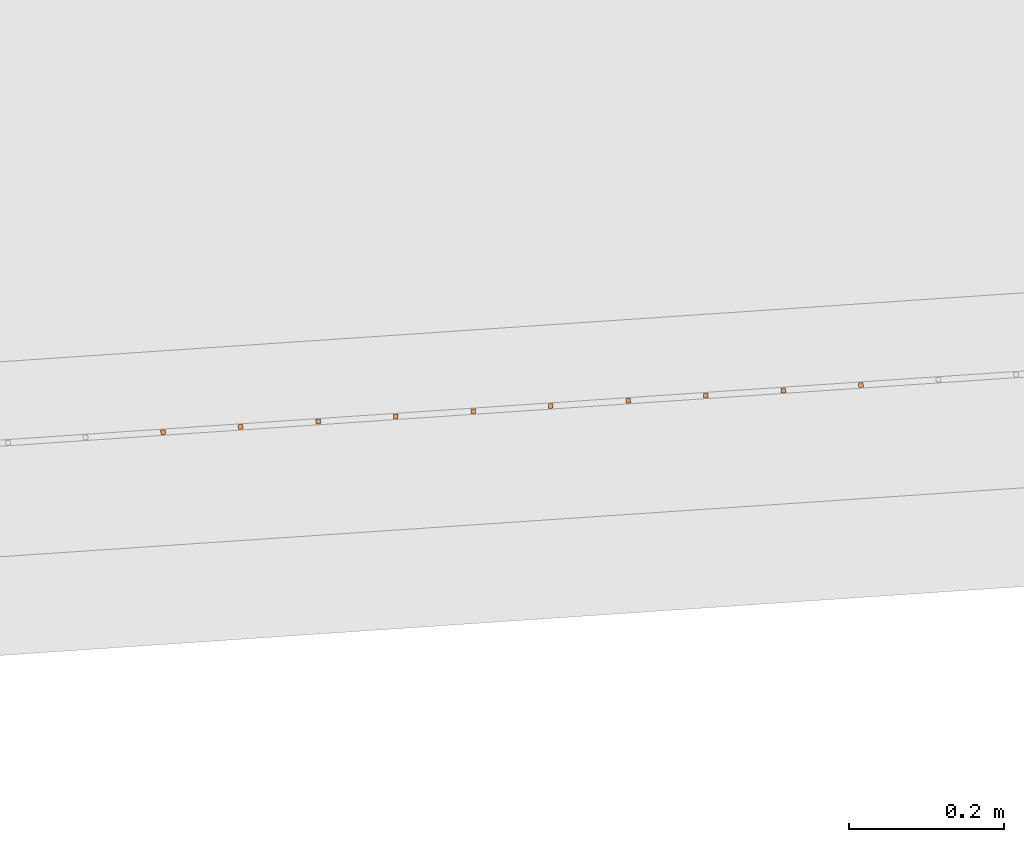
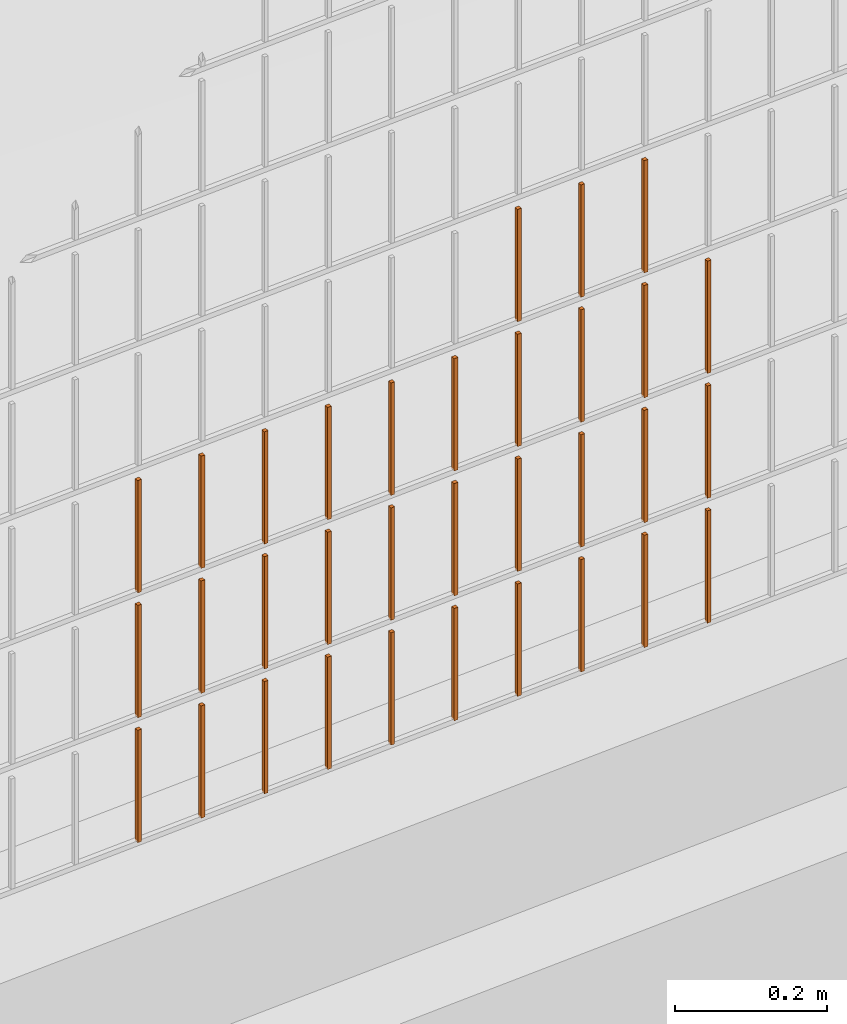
# One storey, part 355 of 1809: 33 proxies, 1 element without a shape of its own.
"""IFC2X3 building model written with IfcOpenShell, lengths in millimetres."""

from ifc_helpers import new_model, entity, si_unit, converted_unit, derived_unit, money_unit, direction, frame, origin_with_axes, place, context, subcontext, project, spatial, faceted_brep, source, transform, mapped, material, type_object, element, aggregate, save


model = new_model("IFC2X3")

# Units and contexts
model_context = context("Model", 3, precision=0.01, world=origin_with_axes(), true_north=direction((0.0, 1.0)))
body_context = subcontext(model_context, "Body", "Model", "MODEL_VIEW")
ifc_project = project(units=[si_unit("LENGTHUNIT", "METRE", prefix="MILLI"), si_unit("AREAUNIT", "SQUARE_METRE"), si_unit("VOLUMEUNIT", "CUBIC_METRE"), converted_unit("PLANEANGLEUNIT", "DEGREE", entity("IfcPlaneAngleMeasure", 0.0174532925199), si_unit("PLANEANGLEUNIT", "RADIAN"), dimensions=[0, 0, 0, 0, 0, 0, 0]), si_unit("SOLIDANGLEUNIT", "STERADIAN"), money_unit("EUR"), converted_unit("TIMEUNIT", "Year", entity("IfcTimeMeasure", 31556926.0), si_unit("TIMEUNIT", "SECOND"), dimensions=[0, 0, 1, 0, 0, 0, 0]), si_unit("MASSUNIT", "GRAM", prefix="KILO"), si_unit("THERMODYNAMICTEMPERATUREUNIT", "DEGREE_CELSIUS"), si_unit("LUMINOUSINTENSITYUNIT", "LUMEN"), si_unit("ENERGYUNIT", "JOULE", prefix="MEGA"), derived_unit("THERMALCONDUCTANCEUNIT", [(si_unit("POWERUNIT", "WATT"), 1), (si_unit("LENGTHUNIT", "METRE"), -1), (si_unit("THERMODYNAMICTEMPERATUREUNIT", "KELVIN"), -1)]), derived_unit("SPECIFICHEATCAPACITYUNIT", [(si_unit("ENERGYUNIT", "JOULE"), 1), (si_unit("MASSUNIT", "GRAM", prefix="KILO"), -1), (si_unit("THERMODYNAMICTEMPERATUREUNIT", "KELVIN"), -1)]), derived_unit("MASSDENSITYUNIT", [(si_unit("MASSUNIT", "GRAM", prefix="KILO"), 1), (si_unit("VOLUMEUNIT", "CUBIC_METRE"), -1)])], contexts=[model_context])

# Site, building, storey
site_placement = place(None, origin_with_axes())
site = spatial("IfcSite", under=ifc_project, at=site_placement, Name="Politse- ja Piirivalveameti ning Päästeameti ühishoone", CompositionType="ELEMENT")
building_placement = place(site_placement, origin_with_axes())
building = spatial("IfcBuilding", under=site, at=building_placement, Name="Politse- ja Piirivalveameti ning Päästeameti ühishoone", CompositionType="ELEMENT")
storey_placement = place(building_placement, origin_with_axes())
storey = spatial("IfcBuildingStorey", under=building, at=storey_placement, Name="Esimene korrus", CompositionType="ELEMENT", Elevation=0.0)

# Proxies
building_element_proxy_type_1 = type_object("IfcBuildingElementProxyType", Name="Railing Type", PredefinedType="NOTDEFINED")
proxy_1_placement = place(storey_placement, frame((89252.001212, -29183.4766571, 203.661247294), z_axis=(0.0, 0.0, 1.0), x_axis=(1.0, 0.0, 0.0)))
proxy_1 = element("IfcBuildingElementProxy", 1, at=proxy_1_placement, inside=storey, type_object=building_element_proxy_type_1, Name="PIIRDEAED")
ifc_material = material(Name="ET-03_Raud")
building_element_proxy_type_2 = type_object("IfcBuildingElementProxyType", Name="IfcBuildingElementProxy", PredefinedType="NOTDEFINED")
shared_shape_1 = source(origin_with_axes(), body_context, "Body", "Brep", [
    faceted_brep([(3.0, 3.0, -0.000752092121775), (-3.0, 3.0, -0.000752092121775), (-3.0, 3.0, 179.99926046), (3.0, 3.0, 179.99926046), (3.0, -3.0, 0.000752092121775), (-3.0, -3.0, 0.000752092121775), (-3.0, -3.0, 180.000764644), (3.0, -3.0, 180.000764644)], [[[0, 1, 2, 3]], [[0, 4, 5, 1]], [[1, 5, 6, 2]], [[3, 2, 6, 7]], [[4, 0, 3, 7]], [[5, 4, 7, 6]]]),
])
proxy_2_placement = place(proxy_1_placement, frame((-25468.6538161, -19018.0862117, 20.8349118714), z_axis=(0.0, 0.0, 1.0), x_axis=(1.0, 0.0, 0.0)))
proxy_2 = element("IfcBuildingElementProxy", 2, at=proxy_2_placement, type_object=building_element_proxy_type_2, material=ifc_material, Name="BALUSTER - 001", context=body_context, shape_type="MappedRepresentation", body=[
    mapped(shared_shape_1, transform((0.0, 0.0, 0.0), x_axis=(-0.0673926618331, 0.997726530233, 0.0), y_axis=(-0.997726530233, -0.0673926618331, 0.0), z_axis=(0.0, 0.0, 1.0))),
])
shared_shape_2 = source(origin_with_axes(), body_context, "Body", "Brep", [
    faceted_brep([(3.0, 3.0, -0.000752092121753), (-3.0, 3.0, -0.000752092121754), (-3.0, 3.0, 179.99926046), (3.0, 3.0, 179.99926046), (3.0, -3.0, 0.000752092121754), (-3.0, -3.0, 0.000752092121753), (-3.0, -3.0, 180.000764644), (3.0, -3.0, 180.000764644)], [[[0, 1, 2, 3]], [[0, 4, 5, 1]], [[1, 5, 6, 2]], [[3, 2, 6, 7]], [[4, 0, 3, 7]], [[5, 4, 7, 6]]]),
])
proxy_3_placement = place(proxy_1_placement, frame((-25867.7444282, -19045.0432764, 420.734632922), z_axis=(0.0, 0.0, 1.0), x_axis=(1.0, 0.0, 0.0)))
proxy_3 = element("IfcBuildingElementProxy", 3, at=proxy_3_placement, type_object=building_element_proxy_type_2, material=ifc_material, Name="BALUSTER - 001", context=body_context, shape_type="MappedRepresentation", body=[
    mapped(shared_shape_2, transform((0.0, 0.0, 0.0), x_axis=(-0.0673926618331, 0.997726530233, 0.0), y_axis=(-0.997726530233, -0.0673926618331, 0.0), z_axis=(0.0, 0.0, 1.0))),
])
shared_shape_3 = source(origin_with_axes(), body_context, "Body", "Brep", [
    faceted_brep([(3.0, 3.0, -0.000752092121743), (-3.0, 3.0, -0.000752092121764), (-3.0, 3.0, 179.99926046), (3.0, 3.0, 179.99926046), (3.0, -3.0, 0.000752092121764), (-3.0, -3.0, 0.000752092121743), (-3.0, -3.0, 180.000764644), (3.0, -3.0, 180.000764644)], [[[0, 1, 2, 3]], [[0, 4, 5, 1]], [[1, 5, 6, 2]], [[3, 2, 6, 7]], [[4, 0, 3, 7]], [[5, 4, 7, 6]]]),
])
proxy_4_placement = place(proxy_1_placement, frame((-25767.9717752, -19038.3040102, 220.759702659), z_axis=(0.0, 0.0, 1.0), x_axis=(1.0, 0.0, 0.0)))
proxy_4 = element("IfcBuildingElementProxy", 4, at=proxy_4_placement, type_object=building_element_proxy_type_2, material=ifc_material, Name="BALUSTER - 001", context=body_context, shape_type="MappedRepresentation", body=[
    mapped(shared_shape_3, transform((0.0, 0.0, 0.0), x_axis=(-0.0673926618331, 0.997726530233, 0.0), y_axis=(-0.997726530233, -0.0673926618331, 0.0), z_axis=(0.0, 0.0, 1.0))),
])
shared_shape_4 = source(origin_with_axes(), body_context, "Body", "Brep", [
    faceted_brep([(3.0, 3.0, -0.000752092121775), (-3.0, 3.0, -0.000752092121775), (-3.0, 3.0, 179.99926046), (3.0, 3.0, 179.99926046), (3.0, -3.0, 0.000752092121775), (-3.0, -3.0, 0.000752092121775), (-3.0, -3.0, 180.000764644), (3.0, -3.0, 180.000764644)], [[[0, 1, 2, 3]], [[0, 4, 5, 1]], [[1, 5, 6, 2]], [[3, 2, 6, 7]], [[4, 0, 3, 7]], [[5, 4, 7, 6]]]),
])
proxy_5_placement = place(proxy_1_placement, frame((-25468.6538161, -19018.0862117, 220.834911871), z_axis=(0.0, 0.0, 1.0), x_axis=(1.0, 0.0, 0.0)))
proxy_5 = element("IfcBuildingElementProxy", 5, at=proxy_5_placement, type_object=building_element_proxy_type_2, material=ifc_material, Name="BALUSTER - 001", context=body_context, shape_type="MappedRepresentation", body=[
    mapped(shared_shape_4, transform((0.0, 0.0, 0.0), x_axis=(-0.0673926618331, 0.997726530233, 0.0), y_axis=(-0.997726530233, -0.0673926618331, 0.0), z_axis=(0.0, 0.0, 1.0))),
])
shared_shape_5 = source(origin_with_axes(), body_context, "Body", "Brep", [
    faceted_brep([(3.0, 3.0, -0.000752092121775), (-3.0, 3.0, -0.000752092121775), (-3.0, 3.0, 179.99926046), (3.0, 3.0, 179.99926046), (3.0, -3.0, 0.000752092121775), (-3.0, -3.0, 0.000752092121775), (-3.0, -3.0, 180.000764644), (3.0, -3.0, 180.000764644)], [[[0, 1, 2, 3]], [[0, 4, 5, 1]], [[1, 5, 6, 2]], [[3, 2, 6, 7]], [[4, 0, 3, 7]], [[5, 4, 7, 6]]]),
])
proxy_6_placement = place(proxy_1_placement, frame((-25468.6538161, -19018.0862117, 420.834911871), z_axis=(0.0, 0.0, 1.0), x_axis=(1.0, 0.0, 0.0)))
proxy_6 = element("IfcBuildingElementProxy", 6, at=proxy_6_placement, type_object=building_element_proxy_type_2, material=ifc_material, Name="BALUSTER - 001", context=body_context, shape_type="MappedRepresentation", body=[
    mapped(shared_shape_5, transform((0.0, 0.0, 0.0), x_axis=(-0.0673926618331, 0.997726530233, 0.0), y_axis=(-0.997726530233, -0.0673926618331, 0.0), z_axis=(0.0, 0.0, 1.0))),
])
shared_shape_6 = source(origin_with_axes(), body_context, "Body", "Brep", [
    faceted_brep([(3.0, 3.0, -0.000752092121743), (-3.0, 3.0, -0.000752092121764), (-3.0, 3.0, 179.99926046), (3.0, 3.0, 179.99926046), (3.0, -3.0, 0.000752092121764), (-3.0, -3.0, 0.000752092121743), (-3.0, -3.0, 180.000764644), (3.0, -3.0, 180.000764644)], [[[0, 1, 2, 3]], [[0, 4, 5, 1]], [[1, 5, 6, 2]], [[3, 2, 6, 7]], [[4, 0, 3, 7]], [[5, 4, 7, 6]]]),
])
proxy_7_placement = place(proxy_1_placement, frame((-25767.9717752, -19038.3040102, 420.759702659), z_axis=(0.0, 0.0, 1.0), x_axis=(1.0, 0.0, 0.0)))
proxy_7 = element("IfcBuildingElementProxy", 7, at=proxy_7_placement, type_object=building_element_proxy_type_2, material=ifc_material, Name="BALUSTER - 001", context=body_context, shape_type="MappedRepresentation", body=[
    mapped(shared_shape_6, transform((0.0, 0.0, 0.0), x_axis=(-0.0673926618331, 0.997726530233, 0.0), y_axis=(-0.997726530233, -0.0673926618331, 0.0), z_axis=(0.0, 0.0, 1.0))),
])
shared_shape_7 = source(origin_with_axes(), body_context, "Body", "Brep", [
    faceted_brep([(3.0, 3.0, -0.000752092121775), (-3.0, 3.0, -0.000752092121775), (-3.0, 3.0, 179.99926046), (3.0, 3.0, 179.99926046), (3.0, -3.0, 0.000752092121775), (-3.0, -3.0, 0.000752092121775), (-3.0, -3.0, 180.000764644), (3.0, -3.0, 180.000764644)], [[[0, 1, 2, 3]], [[0, 4, 5, 1]], [[1, 5, 6, 2]], [[3, 2, 6, 7]], [[4, 0, 3, 7]], [[5, 4, 7, 6]]]),
])
proxy_8_placement = place(proxy_1_placement, frame((-25468.6538161, -19018.0862117, 620.834911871), z_axis=(0.0, 0.0, 1.0), x_axis=(1.0, 0.0, 0.0)))
proxy_8 = element("IfcBuildingElementProxy", 8, at=proxy_8_placement, type_object=building_element_proxy_type_2, material=ifc_material, Name="BALUSTER - 001", context=body_context, shape_type="MappedRepresentation", body=[
    mapped(shared_shape_7, transform((0.0, 0.0, 0.0), x_axis=(-0.0673926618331, 0.997726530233, 0.0), y_axis=(-0.997726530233, -0.0673926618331, 0.0), z_axis=(0.0, 0.0, 1.0))),
])
shared_shape_8 = source(origin_with_axes(), body_context, "Body", "Brep", [
    faceted_brep([(3.0, 3.0, -0.000752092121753), (-3.0, 3.0, -0.000752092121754), (-3.0, 3.0, 179.99926046), (3.0, 3.0, 179.99926046), (3.0, -3.0, 0.000752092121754), (-3.0, -3.0, 0.000752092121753), (-3.0, -3.0, 180.000764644), (3.0, -3.0, 180.000764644)], [[[0, 1, 2, 3]], [[0, 4, 5, 1]], [[1, 5, 6, 2]], [[3, 2, 6, 7]], [[4, 0, 3, 7]], [[5, 4, 7, 6]]]),
])
proxy_9_placement = place(proxy_1_placement, frame((-25867.7444282, -19045.0432764, 220.734632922), z_axis=(0.0, 0.0, 1.0), x_axis=(1.0, 0.0, 0.0)))
proxy_9 = element("IfcBuildingElementProxy", 9, at=proxy_9_placement, type_object=building_element_proxy_type_2, material=ifc_material, Name="BALUSTER - 001", context=body_context, shape_type="MappedRepresentation", body=[
    mapped(shared_shape_8, transform((0.0, 0.0, 0.0), x_axis=(-0.0673926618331, 0.997726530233, 0.0), y_axis=(-0.997726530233, -0.0673926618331, 0.0), z_axis=(0.0, 0.0, 1.0))),
])
shared_shape_9 = source(origin_with_axes(), body_context, "Body", "Brep", [
    faceted_brep([(3.0, 3.0, -0.000752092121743), (-3.0, 3.0, -0.000752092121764), (-3.0, 3.0, 179.99926046), (3.0, 3.0, 179.99926046), (3.0, -3.0, 0.000752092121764), (-3.0, -3.0, 0.000752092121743), (-3.0, -3.0, 180.000764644), (3.0, -3.0, 180.000764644)], [[[0, 1, 2, 3]], [[0, 4, 5, 1]], [[1, 5, 6, 2]], [[3, 2, 6, 7]], [[4, 0, 3, 7]], [[5, 4, 7, 6]]]),
])
proxy_10_placement = place(proxy_1_placement, frame((-25767.9717752, -19038.3040102, 20.7597026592), z_axis=(0.0, 0.0, 1.0), x_axis=(1.0, 0.0, 0.0)))
proxy_10 = element("IfcBuildingElementProxy", 10, at=proxy_10_placement, type_object=building_element_proxy_type_2, material=ifc_material, Name="BALUSTER - 001", context=body_context, shape_type="MappedRepresentation", body=[
    mapped(shared_shape_9, transform((0.0, 0.0, 0.0), x_axis=(-0.0673926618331, 0.997726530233, 0.0), y_axis=(-0.997726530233, -0.0673926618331, 0.0), z_axis=(0.0, 0.0, 1.0))),
])
shared_shape_10 = source(origin_with_axes(), body_context, "Body", "Brep", [
    faceted_brep([(3.0, 3.0, -0.000752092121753), (-3.0, 3.0, -0.000752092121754), (-3.0, 3.0, 179.99926046), (3.0, 3.0, 179.99926046), (3.0, -3.0, 0.000752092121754), (-3.0, -3.0, 0.000752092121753), (-3.0, -3.0, 180.000764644), (3.0, -3.0, 180.000764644)], [[[0, 1, 2, 3]], [[0, 4, 5, 1]], [[1, 5, 6, 2]], [[3, 2, 6, 7]], [[4, 0, 3, 7]], [[5, 4, 7, 6]]]),
])
proxy_11_placement = place(proxy_1_placement, frame((-25867.7444282, -19045.0432764, 20.7346329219), z_axis=(0.0, 0.0, 1.0), x_axis=(1.0, 0.0, 0.0)))
proxy_11 = element("IfcBuildingElementProxy", 11, at=proxy_11_placement, type_object=building_element_proxy_type_2, material=ifc_material, Name="BALUSTER - 001", context=body_context, shape_type="MappedRepresentation", body=[
    mapped(shared_shape_10, transform((0.0, 0.0, 0.0), x_axis=(-0.0673926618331, 0.997726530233, 0.0), y_axis=(-0.997726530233, -0.0673926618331, 0.0), z_axis=(0.0, 0.0, 1.0))),
])
shared_shape_11 = source(origin_with_axes(), body_context, "Body", "Brep", [
    faceted_brep([(3.0, 3.0, -0.000752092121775), (-3.0, 3.0, -0.000752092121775), (-3.0, 3.0, 179.99926046), (3.0, 3.0, 179.99926046), (3.0, -3.0, 0.000752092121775), (-3.0, -3.0, 0.000752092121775), (-3.0, -3.0, 180.000764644), (3.0, -3.0, 180.000764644)], [[[0, 1, 2, 3]], [[0, 4, 5, 1]], [[1, 5, 6, 2]], [[3, 2, 6, 7]], [[4, 0, 3, 7]], [[5, 4, 7, 6]]]),
])
proxy_12_placement = place(proxy_1_placement, frame((-26167.0623873, -19065.2610749, 420.65942371), z_axis=(0.0, 0.0, 1.0), x_axis=(1.0, 0.0, 0.0)))
proxy_12 = element("IfcBuildingElementProxy", 12, at=proxy_12_placement, type_object=building_element_proxy_type_2, material=ifc_material, Name="BALUSTER - 001", context=body_context, shape_type="MappedRepresentation", body=[
    mapped(shared_shape_11, transform((0.0, 0.0, 0.0), x_axis=(-0.0673926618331, 0.997726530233, 0.0), y_axis=(-0.997726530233, -0.0673926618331, 0.0), z_axis=(0.0, 0.0, 1.0))),
])
shared_shape_12 = source(origin_with_axes(), body_context, "Body", "Brep", [
    faceted_brep([(3.0, 3.0, -0.000752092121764), (-3.0, 3.0, -0.000752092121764), (-3.0, 3.0, 179.99926046), (3.0, 3.0, 179.99926046), (3.0, -3.0, 0.000752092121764), (-3.0, -3.0, 0.000752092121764), (-3.0, -3.0, 180.000764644), (3.0, -3.0, 180.000764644)], [[[0, 1, 2, 3]], [[0, 4, 5, 1]], [[1, 5, 6, 2]], [[3, 2, 6, 7]], [[4, 0, 3, 7]], [[5, 4, 7, 6]]]),
])
proxy_13_placement = place(proxy_1_placement, frame((-25568.4264692, -19024.8254778, 620.809842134), z_axis=(0.0, 0.0, 1.0), x_axis=(1.0, 0.0, 0.0)))
proxy_13 = element("IfcBuildingElementProxy", 13, at=proxy_13_placement, type_object=building_element_proxy_type_2, material=ifc_material, Name="BALUSTER - 001", context=body_context, shape_type="MappedRepresentation", body=[
    mapped(shared_shape_12, transform((0.0, 0.0, 0.0), x_axis=(-0.0673926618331, 0.997726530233, 0.0), y_axis=(-0.997726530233, -0.0673926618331, 0.0), z_axis=(0.0, 0.0, 1.0))),
])
shared_shape_13 = source(origin_with_axes(), body_context, "Body", "Brep", [
    faceted_brep([(3.0, 3.0, -0.000752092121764), (-3.0, 3.0, -0.000752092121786), (-3.0, 3.0, 179.99926046), (3.0, 3.0, 179.99926046), (3.0, -3.0, 0.000752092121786), (-3.0, -3.0, 0.000752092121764), (-3.0, -3.0, 180.000764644), (3.0, -3.0, 180.000764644)], [[[0, 1, 2, 3]], [[0, 4, 5, 1]], [[1, 5, 6, 2]], [[3, 2, 6, 7]], [[4, 0, 3, 7]], [[5, 4, 7, 6]]]),
])
proxy_14_placement = place(proxy_1_placement, frame((-25269.1085101, -19004.6076793, 20.8850513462), z_axis=(0.0, 0.0, 1.0), x_axis=(1.0, 0.0, 0.0)))
proxy_14 = element("IfcBuildingElementProxy", 14, at=proxy_14_placement, type_object=building_element_proxy_type_2, material=ifc_material, Name="BALUSTER - 001", context=body_context, shape_type="MappedRepresentation", body=[
    mapped(shared_shape_13, transform((0.0, 0.0, 0.0), x_axis=(-0.0673926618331, 0.997726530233, 0.0), y_axis=(-0.997726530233, -0.0673926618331, 0.0), z_axis=(0.0, 0.0, 1.0))),
])
proxy_15_placement = place(proxy_1_placement, frame((-25269.1085101, -19004.6076793, 220.885051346), z_axis=(0.0, 0.0, 1.0), x_axis=(1.0, 0.0, 0.0)))
proxy_15 = element("IfcBuildingElementProxy", 15, at=proxy_15_placement, type_object=building_element_proxy_type_2, material=ifc_material, Name="BALUSTER - 001", context=body_context, shape_type="MappedRepresentation", body=[
    mapped(shared_shape_13, transform((0.0, 0.0, 0.0), x_axis=(-0.0673926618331, 0.997726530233, 0.0), y_axis=(-0.997726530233, -0.0673926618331, 0.0), z_axis=(0.0, 0.0, 1.0))),
])
shared_shape_14 = source(origin_with_axes(), body_context, "Body", "Brep", [
    faceted_brep([(3.0, 3.0, -0.000752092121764), (-3.0, 3.0, -0.000752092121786), (-3.0, 3.0, 179.99926046), (3.0, 3.0, 179.99926046), (3.0, -3.0, 0.000752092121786), (-3.0, -3.0, 0.000752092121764), (-3.0, -3.0, 180.000764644), (3.0, -3.0, 180.000764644)], [[[0, 1, 2, 3]], [[0, 4, 5, 1]], [[1, 5, 6, 2]], [[3, 2, 6, 7]], [[4, 0, 3, 7]], [[5, 4, 7, 6]]]),
])
proxy_16_placement = place(proxy_1_placement, frame((-25368.8811631, -19011.3469455, 420.859981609), z_axis=(0.0, 0.0, 1.0), x_axis=(1.0, 0.0, 0.0)))
proxy_16 = element("IfcBuildingElementProxy", 16, at=proxy_16_placement, type_object=building_element_proxy_type_2, material=ifc_material, Name="BALUSTER - 001", context=body_context, shape_type="MappedRepresentation", body=[
    mapped(shared_shape_14, transform((0.0, 0.0, 0.0), x_axis=(-0.0673926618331, 0.997726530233, 0.0), y_axis=(-0.997726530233, -0.0673926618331, 0.0), z_axis=(0.0, 0.0, 1.0))),
])
shared_shape_15 = source(origin_with_axes(), body_context, "Body", "Brep", [
    faceted_brep([(3.0, 3.0, -0.000752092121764), (-3.0, 3.0, -0.000752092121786), (-3.0, 3.0, 179.99926046), (3.0, 3.0, 179.99926046), (3.0, -3.0, 0.000752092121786), (-3.0, -3.0, 0.000752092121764), (-3.0, -3.0, 180.000764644), (3.0, -3.0, 180.000764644)], [[[0, 1, 2, 3]], [[0, 4, 5, 1]], [[1, 5, 6, 2]], [[3, 2, 6, 7]], [[4, 0, 3, 7]], [[5, 4, 7, 6]]]),
])
proxy_17_placement = place(proxy_1_placement, frame((-26067.2897343, -19058.5218088, 220.684493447), z_axis=(0.0, 0.0, 1.0), x_axis=(1.0, 0.0, 0.0)))
proxy_17 = element("IfcBuildingElementProxy", 17, at=proxy_17_placement, type_object=building_element_proxy_type_2, material=ifc_material, Name="BALUSTER - 001", context=body_context, shape_type="MappedRepresentation", body=[
    mapped(shared_shape_15, transform((0.0, 0.0, 0.0), x_axis=(-0.0673926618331, 0.997726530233, 0.0), y_axis=(-0.997726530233, -0.0673926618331, 0.0), z_axis=(0.0, 0.0, 1.0))),
])
proxy_18_placement = place(proxy_1_placement, frame((-26067.2897343, -19058.5218088, 420.684493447), z_axis=(0.0, 0.0, 1.0), x_axis=(1.0, 0.0, 0.0)))
proxy_18 = element("IfcBuildingElementProxy", 18, at=proxy_18_placement, type_object=building_element_proxy_type_2, material=ifc_material, Name="BALUSTER - 001", context=body_context, shape_type="MappedRepresentation", body=[
    mapped(shared_shape_15, transform((0.0, 0.0, 0.0), x_axis=(-0.0673926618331, 0.997726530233, 0.0), y_axis=(-0.997726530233, -0.0673926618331, 0.0), z_axis=(0.0, 0.0, 1.0))),
])
shared_shape_16 = source(origin_with_axes(), body_context, "Body", "Brep", [
    faceted_brep([(3.0, 3.0, -0.000752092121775), (-3.0, 3.0, -0.000752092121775), (-3.0, 3.0, 179.99926046), (3.0, 3.0, 179.99926046), (3.0, -3.0, 0.000752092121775), (-3.0, -3.0, 0.000752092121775), (-3.0, -3.0, 180.000764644), (3.0, -3.0, 180.000764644)], [[[0, 1, 2, 3]], [[0, 4, 5, 1]], [[1, 5, 6, 2]], [[3, 2, 6, 7]], [[4, 0, 3, 7]], [[5, 4, 7, 6]]]),
])
proxy_19_placement = place(proxy_1_placement, frame((-26167.0623873, -19065.2610749, 220.65942371), z_axis=(0.0, 0.0, 1.0), x_axis=(1.0, 0.0, 0.0)))
proxy_19 = element("IfcBuildingElementProxy", 19, at=proxy_19_placement, type_object=building_element_proxy_type_2, material=ifc_material, Name="BALUSTER - 001", context=body_context, shape_type="MappedRepresentation", body=[
    mapped(shared_shape_16, transform((0.0, 0.0, 0.0), x_axis=(-0.0673926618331, 0.997726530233, 0.0), y_axis=(-0.997726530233, -0.0673926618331, 0.0), z_axis=(0.0, 0.0, 1.0))),
])
shared_shape_17 = source(origin_with_axes(), body_context, "Body", "Brep", [
    faceted_brep([(3.0, 3.0, -0.000752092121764), (-3.0, 3.0, -0.000752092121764), (-3.0, 3.0, 179.99926046), (3.0, 3.0, 179.99926046), (3.0, -3.0, 0.000752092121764), (-3.0, -3.0, 0.000752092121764), (-3.0, -3.0, 180.000764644), (3.0, -3.0, 180.000764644)], [[[0, 1, 2, 3]], [[0, 4, 5, 1]], [[1, 5, 6, 2]], [[3, 2, 6, 7]], [[4, 0, 3, 7]], [[5, 4, 7, 6]]]),
])
proxy_20_placement = place(proxy_1_placement, frame((-25568.4264692, -19024.8254778, 220.809842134), z_axis=(0.0, 0.0, 1.0), x_axis=(1.0, 0.0, 0.0)))
proxy_20 = element("IfcBuildingElementProxy", 20, at=proxy_20_placement, type_object=building_element_proxy_type_2, material=ifc_material, Name="BALUSTER - 001", context=body_context, shape_type="MappedRepresentation", body=[
    mapped(shared_shape_17, transform((0.0, 0.0, 0.0), x_axis=(-0.0673926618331, 0.997726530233, 0.0), y_axis=(-0.997726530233, -0.0673926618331, 0.0), z_axis=(0.0, 0.0, 1.0))),
])
proxy_21_placement = place(proxy_1_placement, frame((-25568.4264692, -19024.8254778, 420.809842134), z_axis=(0.0, 0.0, 1.0), x_axis=(1.0, 0.0, 0.0)))
proxy_21 = element("IfcBuildingElementProxy", 21, at=proxy_21_placement, type_object=building_element_proxy_type_2, material=ifc_material, Name="BALUSTER - 001", context=body_context, shape_type="MappedRepresentation", body=[
    mapped(shared_shape_17, transform((0.0, 0.0, 0.0), x_axis=(-0.0673926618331, 0.997726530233, 0.0), y_axis=(-0.997726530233, -0.0673926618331, 0.0), z_axis=(0.0, 0.0, 1.0))),
])
shared_shape_18 = source(origin_with_axes(), body_context, "Body", "Brep", [
    faceted_brep([(3.0, 3.0, -0.000752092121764), (-3.0, 3.0, -0.000752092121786), (-3.0, 3.0, 179.99926046), (3.0, 3.0, 179.99926046), (3.0, -3.0, 0.000752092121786), (-3.0, -3.0, 0.000752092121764), (-3.0, -3.0, 180.000764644), (3.0, -3.0, 180.000764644)], [[[0, 1, 2, 3]], [[0, 4, 5, 1]], [[1, 5, 6, 2]], [[3, 2, 6, 7]], [[4, 0, 3, 7]], [[5, 4, 7, 6]]]),
])
proxy_22_placement = place(proxy_1_placement, frame((-25368.8811631, -19011.3469455, 620.859981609), z_axis=(0.0, 0.0, 1.0), x_axis=(1.0, 0.0, 0.0)))
proxy_22 = element("IfcBuildingElementProxy", 22, at=proxy_22_placement, type_object=building_element_proxy_type_2, material=ifc_material, Name="BALUSTER - 001", context=body_context, shape_type="MappedRepresentation", body=[
    mapped(shared_shape_18, transform((0.0, 0.0, 0.0), x_axis=(-0.0673926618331, 0.997726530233, 0.0), y_axis=(-0.997726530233, -0.0673926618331, 0.0), z_axis=(0.0, 0.0, 1.0))),
])
shared_shape_19 = source(origin_with_axes(), body_context, "Body", "Brep", [
    faceted_brep([(3.0, 3.0, -0.000752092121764), (-3.0, 3.0, -0.000752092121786), (-3.0, 3.0, 179.99926046), (3.0, 3.0, 179.99926046), (3.0, -3.0, 0.000752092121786), (-3.0, -3.0, 0.000752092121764), (-3.0, -3.0, 180.000764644), (3.0, -3.0, 180.000764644)], [[[0, 1, 2, 3]], [[0, 4, 5, 1]], [[1, 5, 6, 2]], [[3, 2, 6, 7]], [[4, 0, 3, 7]], [[5, 4, 7, 6]]]),
])
proxy_23_placement = place(proxy_1_placement, frame((-25368.8811631, -19011.3469455, 20.8599816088), z_axis=(0.0, 0.0, 1.0), x_axis=(1.0, 0.0, 0.0)))
proxy_23 = element("IfcBuildingElementProxy", 23, at=proxy_23_placement, type_object=building_element_proxy_type_2, material=ifc_material, Name="BALUSTER - 001", context=body_context, shape_type="MappedRepresentation", body=[
    mapped(shared_shape_19, transform((0.0, 0.0, 0.0), x_axis=(-0.0673926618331, 0.997726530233, 0.0), y_axis=(-0.997726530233, -0.0673926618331, 0.0), z_axis=(0.0, 0.0, 1.0))),
])
proxy_24_placement = place(proxy_1_placement, frame((-25368.8811631, -19011.3469455, 220.859981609), z_axis=(0.0, 0.0, 1.0), x_axis=(1.0, 0.0, 0.0)))
proxy_24 = element("IfcBuildingElementProxy", 24, at=proxy_24_placement, type_object=building_element_proxy_type_2, material=ifc_material, Name="BALUSTER - 001", context=body_context, shape_type="MappedRepresentation", body=[
    mapped(shared_shape_19, transform((0.0, 0.0, 0.0), x_axis=(-0.0673926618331, 0.997726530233, 0.0), y_axis=(-0.997726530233, -0.0673926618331, 0.0), z_axis=(0.0, 0.0, 1.0))),
])
shared_shape_20 = source(origin_with_axes(), body_context, "Body", "Brep", [
    faceted_brep([(3.0, 3.0, -0.000752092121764), (-3.0, 3.0, -0.000752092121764), (-3.0, 3.0, 179.99926046), (3.0, 3.0, 179.99926046), (3.0, -3.0, 0.000752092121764), (-3.0, -3.0, 0.000752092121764), (-3.0, -3.0, 180.000764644), (3.0, -3.0, 180.000764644)], [[[0, 1, 2, 3]], [[0, 4, 5, 1]], [[1, 5, 6, 2]], [[3, 2, 6, 7]], [[4, 0, 3, 7]], [[5, 4, 7, 6]]]),
])
proxy_25_placement = place(proxy_1_placement, frame((-25568.4264692, -19024.8254778, 20.809842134), z_axis=(0.0, 0.0, 1.0), x_axis=(1.0, 0.0, 0.0)))
proxy_25 = element("IfcBuildingElementProxy", 25, at=proxy_25_placement, type_object=building_element_proxy_type_2, material=ifc_material, Name="BALUSTER - 001", context=body_context, shape_type="MappedRepresentation", body=[
    mapped(shared_shape_20, transform((0.0, 0.0, 0.0), x_axis=(-0.0673926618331, 0.997726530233, 0.0), y_axis=(-0.997726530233, -0.0673926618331, 0.0), z_axis=(0.0, 0.0, 1.0))),
])
shared_shape_21 = source(origin_with_axes(), body_context, "Body", "Brep", [
    faceted_brep([(3.0, 3.0, -0.000752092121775), (-3.0, 3.0, -0.000752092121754), (-3.0, 3.0, 179.99926046), (3.0, 3.0, 179.99926046), (3.0, -3.0, 0.000752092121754), (-3.0, -3.0, 0.000752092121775), (-3.0, -3.0, 180.000764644), (3.0, -3.0, 180.000764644)], [[[0, 1, 2, 3]], [[0, 4, 5, 1]], [[1, 5, 6, 2]], [[3, 2, 6, 7]], [[4, 0, 3, 7]], [[5, 4, 7, 6]]]),
])
proxy_26_placement = place(proxy_1_placement, frame((-25668.1991222, -19031.564744, 20.7847723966), z_axis=(0.0, 0.0, 1.0), x_axis=(1.0, 0.0, 0.0)))
proxy_26 = element("IfcBuildingElementProxy", 26, at=proxy_26_placement, type_object=building_element_proxy_type_2, material=ifc_material, Name="BALUSTER - 001", context=body_context, shape_type="MappedRepresentation", body=[
    mapped(shared_shape_21, transform((0.0, 0.0, 0.0), x_axis=(-0.0673926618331, 0.997726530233, 0.0), y_axis=(-0.997726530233, -0.0673926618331, 0.0), z_axis=(0.0, 0.0, 1.0))),
])
shared_shape_22 = source(origin_with_axes(), body_context, "Body", "Brep", [
    faceted_brep([(3.0, 3.0, -0.000752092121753), (-3.0, 3.0, -0.000752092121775), (-3.0, 3.0, 179.99926046), (3.0, 3.0, 179.99926046), (3.0, -3.0, 0.000752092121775), (-3.0, -3.0, 0.000752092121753), (-3.0, -3.0, 180.000764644), (3.0, -3.0, 180.000764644)], [[[0, 1, 2, 3]], [[0, 4, 5, 1]], [[1, 5, 6, 2]], [[3, 2, 6, 7]], [[4, 0, 3, 7]], [[5, 4, 7, 6]]]),
])
proxy_27_placement = place(proxy_1_placement, frame((-25967.5170812, -19051.7825426, 20.7095631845), z_axis=(0.0, 0.0, 1.0), x_axis=(1.0, 0.0, 0.0)))
proxy_27 = element("IfcBuildingElementProxy", 27, at=proxy_27_placement, type_object=building_element_proxy_type_2, material=ifc_material, Name="BALUSTER - 001", context=body_context, shape_type="MappedRepresentation", body=[
    mapped(shared_shape_22, transform((0.0, 0.0, 0.0), x_axis=(-0.0673926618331, 0.997726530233, 0.0), y_axis=(-0.997726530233, -0.0673926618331, 0.0), z_axis=(0.0, 0.0, 1.0))),
])
proxy_28_placement = place(proxy_1_placement, frame((-25967.5170812, -19051.7825426, 220.709563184), z_axis=(0.0, 0.0, 1.0), x_axis=(1.0, 0.0, 0.0)))
proxy_28 = element("IfcBuildingElementProxy", 28, at=proxy_28_placement, type_object=building_element_proxy_type_2, material=ifc_material, Name="BALUSTER - 001", context=body_context, shape_type="MappedRepresentation", body=[
    mapped(shared_shape_22, transform((0.0, 0.0, 0.0), x_axis=(-0.0673926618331, 0.997726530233, 0.0), y_axis=(-0.997726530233, -0.0673926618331, 0.0), z_axis=(0.0, 0.0, 1.0))),
])
shared_shape_23 = source(origin_with_axes(), body_context, "Body", "Brep", [
    faceted_brep([(3.0, 3.0, -0.000752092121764), (-3.0, 3.0, -0.000752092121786), (-3.0, 3.0, 179.99926046), (3.0, 3.0, 179.99926046), (3.0, -3.0, 0.000752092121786), (-3.0, -3.0, 0.000752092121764), (-3.0, -3.0, 180.000764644), (3.0, -3.0, 180.000764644)], [[[0, 1, 2, 3]], [[0, 4, 5, 1]], [[1, 5, 6, 2]], [[3, 2, 6, 7]], [[4, 0, 3, 7]], [[5, 4, 7, 6]]]),
])
proxy_29_placement = place(proxy_1_placement, frame((-26067.2897343, -19058.5218088, 20.6844934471), z_axis=(0.0, 0.0, 1.0), x_axis=(1.0, 0.0, 0.0)))
proxy_29 = element("IfcBuildingElementProxy", 29, at=proxy_29_placement, type_object=building_element_proxy_type_2, material=ifc_material, Name="BALUSTER - 001", context=body_context, shape_type="MappedRepresentation", body=[
    mapped(shared_shape_23, transform((0.0, 0.0, 0.0), x_axis=(-0.0673926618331, 0.997726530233, 0.0), y_axis=(-0.997726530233, -0.0673926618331, 0.0), z_axis=(0.0, 0.0, 1.0))),
])
shared_shape_24 = source(origin_with_axes(), body_context, "Body", "Brep", [
    faceted_brep([(3.0, 3.0, -0.000752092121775), (-3.0, 3.0, -0.000752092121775), (-3.0, 3.0, 179.99926046), (3.0, 3.0, 179.99926046), (3.0, -3.0, 0.000752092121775), (-3.0, -3.0, 0.000752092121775), (-3.0, -3.0, 180.000764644), (3.0, -3.0, 180.000764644)], [[[0, 1, 2, 3]], [[0, 4, 5, 1]], [[1, 5, 6, 2]], [[3, 2, 6, 7]], [[4, 0, 3, 7]], [[5, 4, 7, 6]]]),
])
proxy_30_placement = place(proxy_1_placement, frame((-26167.0623873, -19065.2610749, 20.6594237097), z_axis=(0.0, 0.0, 1.0), x_axis=(1.0, 0.0, 0.0)))
proxy_30 = element("IfcBuildingElementProxy", 30, at=proxy_30_placement, type_object=building_element_proxy_type_2, material=ifc_material, Name="BALUSTER - 001", context=body_context, shape_type="MappedRepresentation", body=[
    mapped(shared_shape_24, transform((0.0, 0.0, 0.0), x_axis=(-0.0673926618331, 0.997726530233, 0.0), y_axis=(-0.997726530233, -0.0673926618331, 0.0), z_axis=(0.0, 0.0, 1.0))),
])
shared_shape_25 = source(origin_with_axes(), body_context, "Body", "Brep", [
    faceted_brep([(3.0, 3.0, -0.000752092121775), (-3.0, 3.0, -0.000752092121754), (-3.0, 3.0, 179.99926046), (3.0, 3.0, 179.99926046), (3.0, -3.0, 0.000752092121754), (-3.0, -3.0, 0.000752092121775), (-3.0, -3.0, 180.000764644), (3.0, -3.0, 180.000764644)], [[[0, 1, 2, 3]], [[0, 4, 5, 1]], [[1, 5, 6, 2]], [[3, 2, 6, 7]], [[4, 0, 3, 7]], [[5, 4, 7, 6]]]),
])
proxy_31_placement = place(proxy_1_placement, frame((-25668.1991222, -19031.564744, 220.784772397), z_axis=(0.0, 0.0, 1.0), x_axis=(1.0, 0.0, 0.0)))
proxy_31 = element("IfcBuildingElementProxy", 31, at=proxy_31_placement, type_object=building_element_proxy_type_2, material=ifc_material, Name="BALUSTER - 001", context=body_context, shape_type="MappedRepresentation", body=[
    mapped(shared_shape_25, transform((0.0, 0.0, 0.0), x_axis=(-0.0673926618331, 0.997726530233, 0.0), y_axis=(-0.997726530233, -0.0673926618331, 0.0), z_axis=(0.0, 0.0, 1.0))),
])
shared_shape_26 = source(origin_with_axes(), body_context, "Body", "Brep", [
    faceted_brep([(3.0, 3.0, -0.000752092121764), (-3.0, 3.0, -0.000752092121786), (-3.0, 3.0, 179.99926046), (3.0, 3.0, 179.99926046), (3.0, -3.0, 0.000752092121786), (-3.0, -3.0, 0.000752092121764), (-3.0, -3.0, 180.000764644), (3.0, -3.0, 180.000764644)], [[[0, 1, 2, 3]], [[0, 4, 5, 1]], [[1, 5, 6, 2]], [[3, 2, 6, 7]], [[4, 0, 3, 7]], [[5, 4, 7, 6]]]),
])
proxy_32_placement = place(proxy_1_placement, frame((-25269.1085101, -19004.6076793, 420.885051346), z_axis=(0.0, 0.0, 1.0), x_axis=(1.0, 0.0, 0.0)))
proxy_32 = element("IfcBuildingElementProxy", 32, at=proxy_32_placement, type_object=building_element_proxy_type_2, material=ifc_material, Name="BALUSTER - 001", context=body_context, shape_type="MappedRepresentation", body=[
    mapped(shared_shape_26, transform((0.0, 0.0, 0.0), x_axis=(-0.0673926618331, 0.997726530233, 0.0), y_axis=(-0.997726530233, -0.0673926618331, 0.0), z_axis=(0.0, 0.0, 1.0))),
])
shared_shape_27 = source(origin_with_axes(), body_context, "Body", "Brep", [
    faceted_brep([(3.0, 3.0, -0.000752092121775), (-3.0, 3.0, -0.000752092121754), (-3.0, 3.0, 179.99926046), (3.0, 3.0, 179.99926046), (3.0, -3.0, 0.000752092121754), (-3.0, -3.0, 0.000752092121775), (-3.0, -3.0, 180.000764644), (3.0, -3.0, 180.000764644)], [[[0, 1, 2, 3]], [[0, 4, 5, 1]], [[1, 5, 6, 2]], [[3, 2, 6, 7]], [[4, 0, 3, 7]], [[5, 4, 7, 6]]]),
])
proxy_33_placement = place(proxy_1_placement, frame((-25668.1991222, -19031.564744, 420.784772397), z_axis=(0.0, 0.0, 1.0), x_axis=(1.0, 0.0, 0.0)))
proxy_33 = element("IfcBuildingElementProxy", 33, at=proxy_33_placement, type_object=building_element_proxy_type_2, material=ifc_material, Name="BALUSTER - 001", context=body_context, shape_type="MappedRepresentation", body=[
    mapped(shared_shape_27, transform((0.0, 0.0, 0.0), x_axis=(-0.0673926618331, 0.997726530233, 0.0), y_axis=(-0.997726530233, -0.0673926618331, 0.0), z_axis=(0.0, 0.0, 1.0))),
])
shared_shape_28 = source(origin_with_axes(), body_context, "Body", "Brep", [
    faceted_brep([(3.0, 3.0, -0.000752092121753), (-3.0, 3.0, -0.000752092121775), (-3.0, 3.0, 179.99926046), (3.0, 3.0, 179.99926046), (3.0, -3.0, 0.000752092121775), (-3.0, -3.0, 0.000752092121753), (-3.0, -3.0, 180.000764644), (3.0, -3.0, 180.000764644)], [[[0, 1, 2, 3]], [[0, 4, 5, 1]], [[1, 5, 6, 2]], [[3, 2, 6, 7]], [[4, 0, 3, 7]], [[5, 4, 7, 6]]]),
])
proxy_34_placement = place(proxy_1_placement, frame((-25967.5170812, -19051.7825426, 420.709563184), z_axis=(0.0, 0.0, 1.0), x_axis=(1.0, 0.0, 0.0)))
proxy_34 = element("IfcBuildingElementProxy", 34, at=proxy_34_placement, type_object=building_element_proxy_type_2, material=ifc_material, Name="BALUSTER - 001", context=body_context, shape_type="MappedRepresentation", body=[
    mapped(shared_shape_28, transform((0.0, 0.0, 0.0), x_axis=(-0.0673926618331, 0.997726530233, 0.0), y_axis=(-0.997726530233, -0.0673926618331, 0.0), z_axis=(0.0, 0.0, 1.0))),
])
aggregate(proxy_1, [proxy_14, proxy_23, proxy_2, proxy_25, proxy_26, proxy_10, proxy_11, proxy_27, proxy_29, proxy_30, proxy_15, proxy_24, proxy_5, proxy_20, proxy_31, proxy_4, proxy_9, proxy_28, proxy_17, proxy_19, proxy_32, proxy_16, proxy_6, proxy_21, proxy_33, proxy_7, proxy_3, proxy_34, proxy_18, proxy_12, proxy_22, proxy_8, proxy_13])

save(model, "model.ifc")
